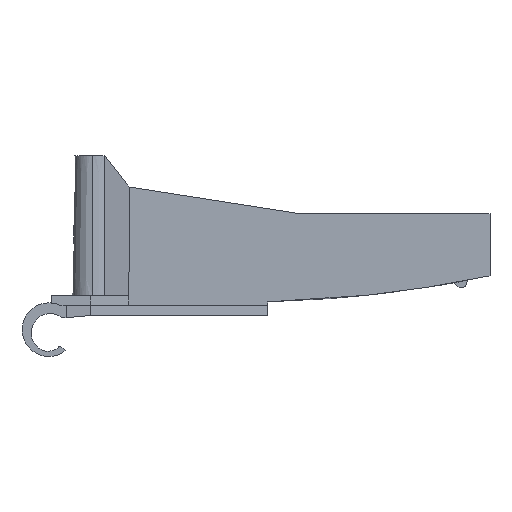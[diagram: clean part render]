
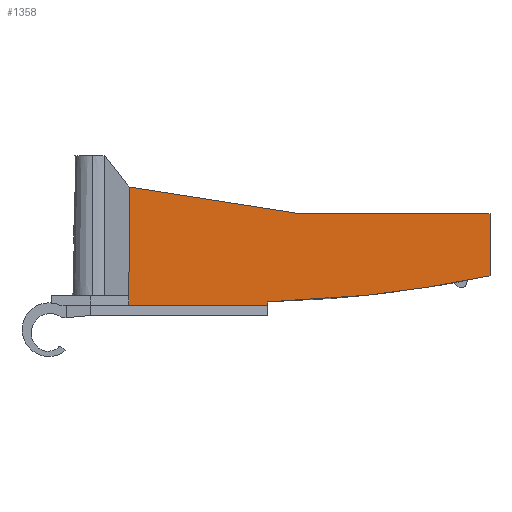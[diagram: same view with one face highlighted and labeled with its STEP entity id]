
A CAD part, left-side view. The second image highlights one B-rep face of the part: STEP entity #1358.
In plain terms, the highlighted planar face has unit normal (-1, 0, 0.018).
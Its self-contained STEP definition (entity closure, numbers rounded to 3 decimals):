
#126 = AXIS2_PLACEMENT_3D ( 'NONE', #676, #682, #683 ) ;
#150 = ORIENTED_EDGE ( 'NONE', *, *, #774, .T. ) ;
#151 = ORIENTED_EDGE ( 'NONE', *, *, #777, .F. ) ;
#152 = ORIENTED_EDGE ( 'NONE', *, *, #1919, .T. ) ;
#153 = ORIENTED_EDGE ( 'NONE', *, *, #315, .T. ) ;
#154 = ORIENTED_EDGE ( 'NONE', *, *, #790, .T. ) ;
#155 = ORIENTED_EDGE ( 'NONE', *, *, #778, .F. ) ;
#156 = ORIENTED_EDGE ( 'NONE', *, *, #779, .T. ) ;
#157 = ORIENTED_EDGE ( 'NONE', *, *, #317, .T. ) ;
#174 = VECTOR ( 'NONE', #322, 1000. ) ;
#175 = VECTOR ( 'NONE', #389, 1000. ) ;
#270 = VERTEX_POINT ( 'NONE', #818 ) ;
#315 = EDGE_CURVE ( 'NONE', #1619, #395, #549, .T. ) ;
#317 = EDGE_CURVE ( 'NONE', #1295, #270, #1128, .T. ) ;
#318 = CARTESIAN_POINT ( 'NONE',  ( -5.697, 114.5, 50.898 ) ) ;
#319 = DIRECTION ( 'NONE',  ( 0.017, -0.001, 1. ) ) ;
#321 = CARTESIAN_POINT ( 'NONE',  ( -5.7, 0., 50.75 ) ) ;
#322 = DIRECTION ( 'NONE',  ( -0.017, 0., -1. ) ) ;
#338 = CARTESIAN_POINT ( 'NONE',  ( -6.511, 70.5, 4.315 ) ) ;
#348 = CARTESIAN_POINT ( 'NONE',  ( -6.499, 46.786, 4.97 ) ) ;
#349 = CARTESIAN_POINT ( 'NONE',  ( -6.451, 23.224, 7.726 ) ) ;
#384 = CARTESIAN_POINT ( 'NONE',  ( -6.023, 0., 32.262 ) ) ;
#387 = CARTESIAN_POINT ( 'NONE',  ( -5.697, 114.5, 50.898 ) ) ;
#388 = DIRECTION ( 'NONE',  ( -0.017, 0.001, -1. ) ) ;
#389 = DIRECTION ( 'NONE',  ( 0., 1., 0. ) ) ;
#394 = VERTEX_POINT ( 'NONE', #1041 ) ;
#395 = VERTEX_POINT ( 'NONE', #1038 ) ;
#396 = VERTEX_POINT ( 'NONE', #1042 ) ;
#397 = VERTEX_POINT ( 'NONE', #1043 ) ;
#549 = LINE ( 'NONE', #1029, #1127 ) ;
#583 = LINE ( 'NONE', #387, #584 ) ;
#584 = VECTOR ( 'NONE', #388, 1000. ) ;
#586 = LINE ( 'NONE', #384, #175 ) ;
#588 = LINE ( 'NONE', #318, #589 ) ;
#589 = VECTOR ( 'NONE', #319, 1000. ) ;
#590 = LINE ( 'NONE', #321, #174 ) ;
#673 = PLANE ( 'NONE',  #126 ) ;
#676 = CARTESIAN_POINT ( 'NONE',  ( -5.7, 0., 50.75 ) ) ;
#682 = DIRECTION ( 'NONE',  ( -1., 0., 0.017 ) ) ;
#683 = DIRECTION ( 'NONE',  ( 0.017, 0., 1. ) ) ;
#724 = CARTESIAN_POINT ( 'NONE',  ( -6.529, 70.5, 3.25 ) ) ;
#772 = EDGE_LOOP ( 'NONE', ( #150, #151, #152, #153, #154, #155, #156, #157 ) ) ;
#774 = EDGE_CURVE ( 'NONE', #270, #394, #583, .T. ) ;
#777 = EDGE_CURVE ( 'NONE', #1994, #394, #588, .T. ) ;
#778 = EDGE_CURVE ( 'NONE', #397, #396, #590, .T. ) ;
#779 = EDGE_CURVE ( 'NONE', #397, #1295, #586, .T. ) ;
#790 = EDGE_CURVE ( 'NONE', #395, #396, #1504, .T. ) ;
#818 = CARTESIAN_POINT ( 'NONE',  ( -5.874, 114.513, 40.762 ) ) ;
#930 = CARTESIAN_POINT ( 'NONE',  ( -6.529, 0., 3.25 ) ) ;
#931 = DIRECTION ( 'NONE',  ( 0., -1., 0. ) ) ;
#1029 = CARTESIAN_POINT ( 'NONE',  ( -5.7, 70.5, 50.75 ) ) ;
#1032 = DIRECTION ( 'NONE',  ( 0.017, 0., 1. ) ) ;
#1038 = CARTESIAN_POINT ( 'NONE',  ( -6.511, 70.5, 4.315 ) ) ;
#1039 = CARTESIAN_POINT ( 'NONE',  ( -6.174, 4.24, 23.568 ) ) ;
#1040 = DIRECTION ( 'NONE',  ( 0.003, 0.988, 0.154 ) ) ;
#1041 = CARTESIAN_POINT ( 'NONE',  ( -6.477, 114.558, 6.25 ) ) ;
#1042 = CARTESIAN_POINT ( 'NONE',  ( -6.367, 0., 12.562 ) ) ;
#1043 = CARTESIAN_POINT ( 'NONE',  ( -6.023, 0., 32.262 ) ) ;
#1127 = VECTOR ( 'NONE', #1032, 1000. ) ;
#1128 = LINE ( 'NONE', #1039, #1130 ) ;
#1130 = VECTOR ( 'NONE', #1040, 1000. ) ;
#1155 = FACE_OUTER_BOUND ( 'NONE', #772, .T. ) ;
#1193 = LINE ( 'NONE', #930, #1194 ) ;
#1194 = VECTOR ( 'NONE', #931, 1000. ) ;
#1295 = VERTEX_POINT ( 'NONE', #1661 ) ;
#1358 = ADVANCED_FACE ( 'NONE', ( #1155 ), #673, .T. ) ;
#1504 =( BOUNDED_CURVE ( )  B_SPLINE_CURVE ( 3, ( #338, #348, #349, #1623 ),
 .UNSPECIFIED., .F., .T. ) 
 B_SPLINE_CURVE_WITH_KNOTS ( ( 4, 4 ),
 ( 3.169, 3.347 ),
 .UNSPECIFIED. ) 
 CURVE ( )  GEOMETRIC_REPRESENTATION_ITEM ( )  RATIONAL_B_SPLINE_CURVE ( ( 1., 0.997, 0.997, 1. ) ) 
 REPRESENTATION_ITEM ( '' )  );
#1619 = VERTEX_POINT ( 'NONE', #724 ) ;
#1623 = CARTESIAN_POINT ( 'NONE',  ( -6.367, 0., 12.562 ) ) ;
#1661 = CARTESIAN_POINT ( 'NONE',  ( -6.023, 60., 32.262 ) ) ;
#1787 = CARTESIAN_POINT ( 'NONE',  ( -6.529, 114.562, 3.25 ) ) ;
#1919 = EDGE_CURVE ( 'NONE', #1994, #1619, #1193, .T. ) ;
#1994 = VERTEX_POINT ( 'NONE', #1787 ) ;
